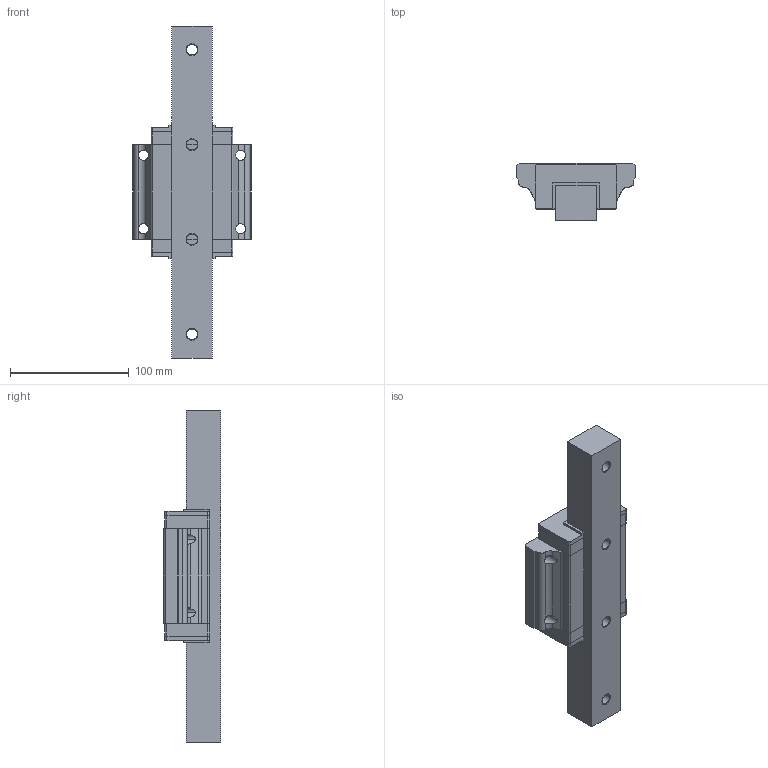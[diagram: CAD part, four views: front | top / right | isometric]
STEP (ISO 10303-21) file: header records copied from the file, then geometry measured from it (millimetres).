
FILE_DESCRIPTION( ( 'STEP File Generated from CADKEY Workshop EX' ), '1' );
FILE_NAME( 'Part1', '2004-11-06T00:05:16', ( 'CADKEY USER' ), ( 'CADKEY CORPORATION' ), 'ACIS Interop R11 SP4', 'CADKEY Workshop EX V21.05.02 (0359)', 'CK' );
FILE_SCHEMA( ( 'CONFIG_CONTROL_DESIGN' ) );
Length unit declared in the file: millimetre
Products named in the file (6): 1; 2; 3; 4; 5; 6
Bounding box: 100 x 48.1 x 280 mm (x, y, z)
Volume: 527102.4 mm3; surface area: 94840.8 mm2
Topology: 6 solids, 6 shells, 154 faces, 410 edges, 268 vertices
Faces by surface type: plane 86, cylinder 52, cone 16
Entity records: 5291 total; most frequent: CARTESIAN_POINT 1086, DIRECTION 826, ORIENTED_EDGE 820, EDGE_CURVE 410, LINE 282, VECTOR 282, AXIS2_PLACEMENT_3D 272, VERTEX_POINT 268
